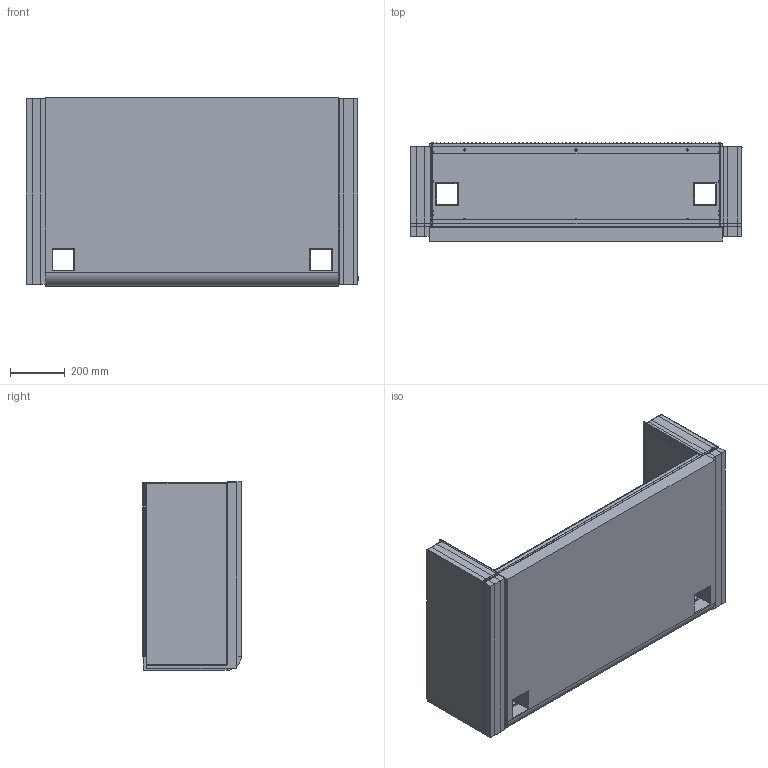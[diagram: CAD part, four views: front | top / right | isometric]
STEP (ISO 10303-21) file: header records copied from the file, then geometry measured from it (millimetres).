
FILE_DESCRIPTION(('CATIA V5 STEP Exchange','CAx-IF Rec.Pracs.--- Composite Materials ---3.4---2017-06-13'),'2;1');
FILE_NAME('C:\Users\MMAK\Documents\SmarTeam\WEBSITE CAD\LIJ\LIJ42.stp','2026-07-15T18:33:41+00:00',('none'),('none'),'CATIA Unofficial Packaging Version SP2','CATIA V5 STEP AP203 v2','none');
FILE_SCHEMA(('CONFIG_CONTROL_DESIGN'));
Length unit declared in the file: inch
Products named in the file (1): 81128 2
Assembly tree (83 placements, depth 2):
  81128 2
    #63  x66
    #539  x2
    #3254
    #13821  x4
    #14016
    #15339
    #19853
    #22912
    #26250  x2
    #28825  x2
    #31417
    #35591
Bounding box: 1212.82 x 359.96 x 689.54 mm (x, y, z)
Volume: 100592868.5 mm3; surface area: 11530369.4 mm2
Topology: 83 solids, 83 shells, 2474 faces, 5616 edges, 3440 vertices
Faces by surface type: plane 1224, cylinder 970, torus 132, revolution 132, bspline 16
Entity records: 36405 total; most frequent: CARTESIAN_POINT 9661, ORIENTED_EDGE 5854, DIRECTION 4305, EDGE_CURVE 2927, VECTOR 1877, LINE 1877, VERTEX_POINT 1800, AXIS2_PLACEMENT_3D 1616
